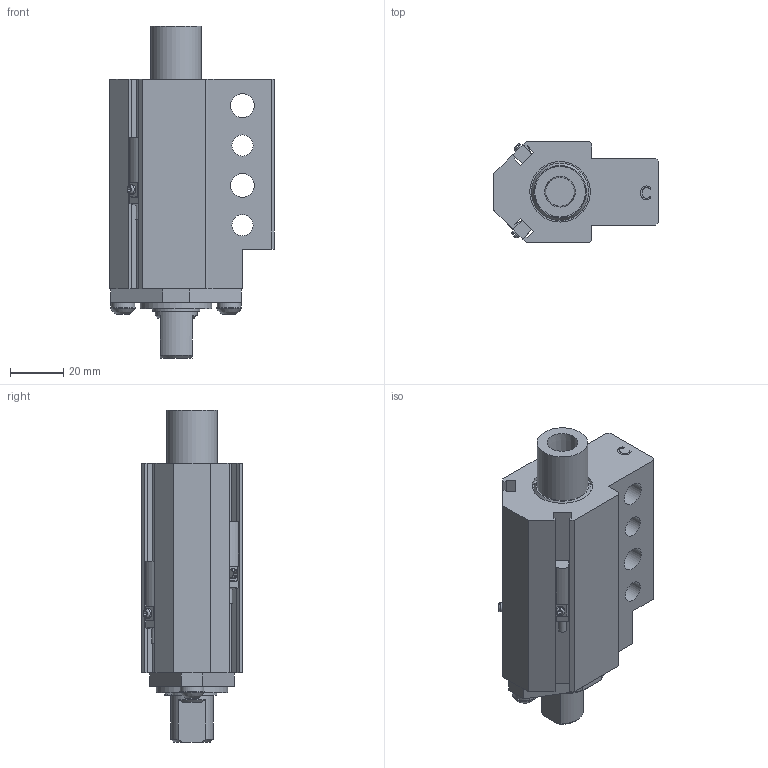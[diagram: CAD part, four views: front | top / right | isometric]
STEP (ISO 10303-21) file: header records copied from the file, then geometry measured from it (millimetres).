
FILE_DESCRIPTION(/* description */ ('MINI PASS THRU GROUND BLOCK'),/* implementation_level */ '2;1');
FILE_NAME(/* name */ 'C:\Vault Workspace\CAD\Welker\Cylinders\GBM\GBM0CL3.stp',/* time_stamp */ '2021-06-24T14:23:21-04:00',/* author */ ('KPL'),/* organization */ (''),/* preprocessor_version */ 'ST-DEVELOPER v18.1',/* originating_system */ 'Autodesk Inventor 2020',/* authorisation */ '');
FILE_SCHEMA (('AUTOMOTIVE_DESIGN { 1 0 10303 214 3 1 1 }'));
Products named in the file (10): GBML01; 91590A126; 96100A152; L3 Sensor 1; M5X0.8-10 BHCS; NL5; GBME01C; GBME02; GBME04; AN-05U2145
Assembly tree (12 placements, depth 2):
  GBML01
    91590A126
    96100A152
    L3 Sensor 1  x2
    M5X0.8-10 BHCS  x2
    NL5  x2
    GBME01C
    GBME02
    GBME04
    AN-05U2145
Bounding box: 62 x 38.1 x 125 mm (x, y, z)
Volume: 124126.4 mm3; surface area: 46594.2 mm2
Topology: 12 solids, 12 shells, 430 faces, 1186 edges, 790 vertices
Faces by surface type: plane 298, cylinder 93, bspline 18, cone 15, torus 4, sphere 2
Full cylindrical faces by diameter (mm): 1.194 x2, 2.9 x2, 4.134 x2, 5 x2, 5.4 x2, 5.5 x2, 6.647 x1, 8 x2, 9 x4, 9.5 x2, 14.935 x1, 15.875 x3, 16.383 x1, 19.05 x1, 19.177 x1, 22.225 x2, 22.784 x1, 24.613 x1, 25.654 x1, 25.705 x1, 26.987 x1, 28.591 x1, 28.667 x1
Entity records: 9834 total; most frequent: CARTESIAN_POINT 1915, ORIENTED_EDGE 1556, DIRECTION 1540, EDGE_CURVE 778, VERTEX_POINT 527, AXIS2_PLACEMENT_3D 518, LINE 504, VECTOR 504
